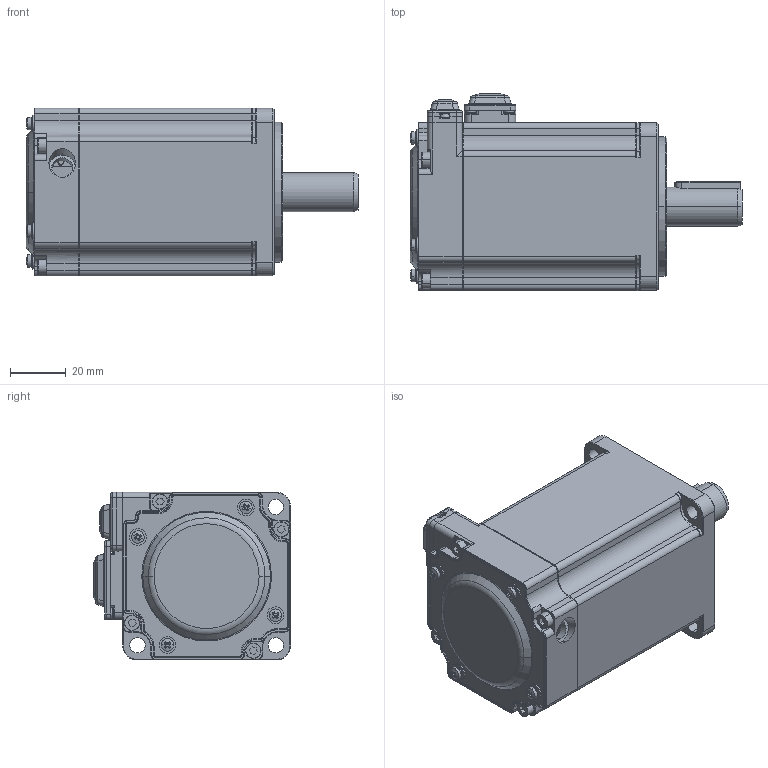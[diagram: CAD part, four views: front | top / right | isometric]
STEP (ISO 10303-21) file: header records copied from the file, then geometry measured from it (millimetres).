
FILE_DESCRIPTION (( 'STEP AP214' ), '1' );
FILE_NAME ('萇儂郪璃-眻脣.STEP', '2021-12-24T12:22:04', ( '' ), ( '' ), 'SwSTEP 2.0', 'SolidWorks 2021', '' );
FILE_SCHEMA (( 'AUTOMOTIVE_DESIGN' ));
Length unit declared in the file: millimetre
Products named in the file (1): 萇儂郪璃-眻脣
Bounding box: 118.8 x 70.5 x 60.1 mm (x, y, z)
Surface area: 37603.3 mm2 (no closed solid volume)
Topology: 0 solids, 40 shells, 890 faces, 2557 edges, 1672 vertices
Faces by surface type: plane 344, cylinder 314, torus 96, cone 93, bspline 35, sphere 8
Entity records: 42051 total; most frequent: CARTESIAN_POINT 9044, DIRECTION 5142, ORIENTED_EDGE 4436, EDGE_CURVE 2553, AXIS2_PLACEMENT_3D 2008, VERTEX_POINT 1672, CIRCLE 1152, VECTOR 1126
